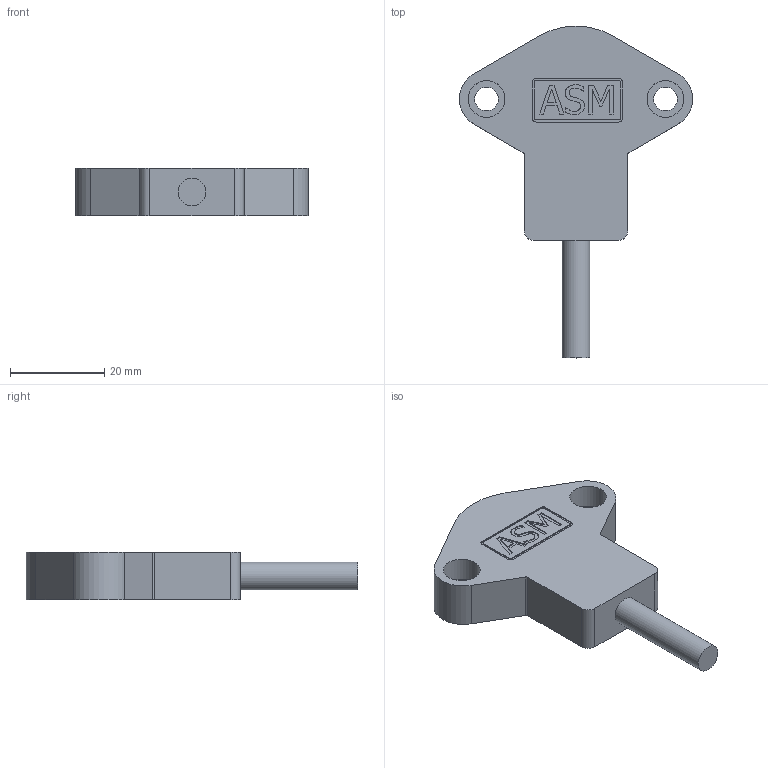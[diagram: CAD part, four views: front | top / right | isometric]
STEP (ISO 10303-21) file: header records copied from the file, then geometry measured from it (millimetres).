
FILE_DESCRIPTION((''),'2;1');
FILE_NAME('K:\Daten\121727_PTAM27 KAB_001_BKunde.stp','2010-09-22T12:28:08',('kamp'),(''),'Autodesk Inventor 2008','Autodesk Inventor 2008','');
FILE_SCHEMA(('AUTOMOTIVE_DESIGN { 1 0 10303 214 1 1 1 1 }'));
Length unit declared in the file: millimetre
Products named in the file (1): 121727_PTAM27 KAB_001_BKunde
Bounding box: 49.5 x 70.5 x 10 mm (x, y, z)
Volume: 13762.4 mm3; surface area: 5148.3 mm2
Topology: 1 solids, 1 shells, 90 faces, 237 edges, 158 vertices
Faces by surface type: plane 52, bspline 23, cylinder 15
Full cylindrical faces by diameter (mm): 5.9 x1
Entity records: 2923 total; most frequent: CARTESIAN_POINT 772, ORIENTED_EDGE 464, DIRECTION 376, EDGE_CURVE 232, VECTOR 160, LINE 160, VERTEX_POINT 158, AXIS2_PLACEMENT_3D 108
